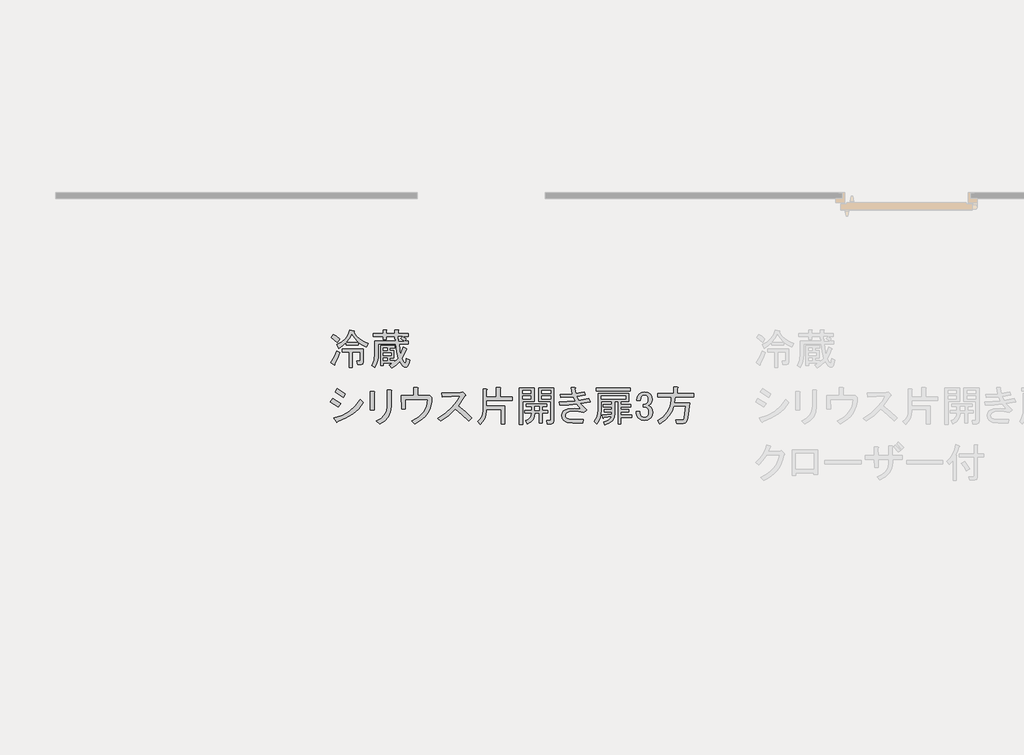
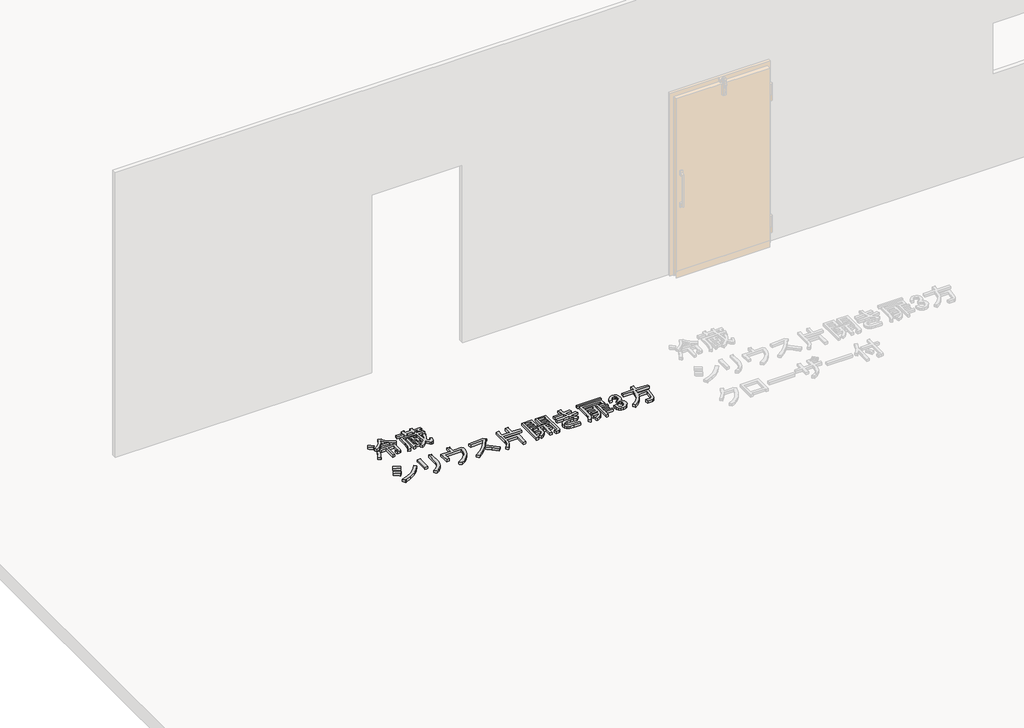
# One storey, part 73 of 117: 1 proxy.
"""IFC4 building model written with IfcOpenShell, lengths in millimetres."""

from ifc_helpers import new_model, si_unit, frame, origin, place, context, project, spatial, polyline, outline, extrude, element, save

model = new_model("IFC4")

# Units and contexts
model_context = context("Model", 3, world=origin())
ifc_project = project(units=[si_unit("LENGTHUNIT", "METRE", prefix="MILLI")], contexts=[model_context])

# Site, building, storey
site = spatial("IfcSite", under=ifc_project)
building = spatial("IfcBuilding", under=site)
storey = spatial("IfcBuildingStorey", under=building, Name="レベル 1", Elevation=500.0)

# Proxy
placement = place(None, origin())
element("IfcBuildingElementProxy", 1, Name="200㎜\u3000MS Pゴシック", ObjectType="200㎜\u3000MS Pゴシック", at=placement, inside=storey, context=model_context, shape_type="SweptSolid", body=[
    extrude(outline(polyline([(-24116.3970532, 18948.5050774), (-24082.7035553, 18967.9021871), (-24056.3378543, 18991.6097656), (-24037.2999504, 19019.6278129), (-24025.5898434, 19051.9563291), (-23994.5544679, 19043.9101206), (-23993.117645, 19040.174381), (-23998.002843, 19038.1628289), (-23979.1804624, 19010.6476696), (-23956.0476131, 18987.874026), (-23928.6042949, 18969.8418981), (-23896.850508, 18956.5512859), (-23908.3450915, 18932.4126605), (-23937.3689149, 18945.9187961), (-23966.9674674, 18965.7469527), (-23966.9674674, 18946.2061607), (-24049.7284688, 18946.2061607), (-24049.7284688, 18964.5974943), (-24074.1544588, 18942.7577856), (-24103.7530113, 18923.2169937), (-24116.3970532, 18948.5050774)]), holes=[polyline([(-23969.2663841, 18968.0458694), (-23995.4165617, 18995.3455052), (-24011.7963432, 19022.0704119), (-24025.5898434, 18993.0465885), (-24046.2800937, 18968.0458694), (-23969.2663841, 18968.0458694)])]), frame((0.0, 0.0, 500.0), z_axis=(0.0, 0.0, 1.0), x_axis=(1.0, 0.0, 0.0)), (0.0, 0.0, 1.0), 25.0),
    extrude(outline(polyline([(-24158.9270122, 18822.0646587), (-24135.9378452, 18861.7209718), (-24117.5465116, 18904.82566), (-24096.8562612, 18892.1816181), (-24114.3855011, 18848.2148362), (-24132.4894701, 18812.8689919), (-24133.0641993, 18806.5469709), (-24137.0873035, 18805.9722417), (-24158.9270122, 18822.0646587)])), frame((0.0, 0.0, 500.0), z_axis=(0.0, 0.0, 1.0), x_axis=(1.0, 0.0, 0.0)), (0.0, 0.0, 1.0), 25.0),
    extrude(outline(polyline([(-24079.6143859, 18897.9289099), (-24079.6143859, 18919.7686186), (-23930.1848002, 18919.7686186), (-23930.1848002, 18825.5130337), (-23934.2079044, 18814.3058148), (-23946.2772171, 18810.5700752), (-23971.5653009, 18810.5700752), (-23976.1631343, 18832.4097838), (-23957.7718006, 18832.4097838), (-23954.3234256, 18833.5592422), (-23953.1739672, 18837.0076172), (-23953.1739672, 18897.9289099), (-24007.1985098, 18897.9289099), (-24007.1985098, 18786.4314498), (-24030.1876768, 18786.4314498), (-24030.1876768, 18897.9289099), (-24079.6143859, 18897.9289099)])), frame((0.0, 0.0, 500.0), z_axis=(0.0, 0.0, 1.0), x_axis=(1.0, 0.0, 0.0)), (0.0, 0.0, 1.0), 25.0),
    extrude(outline(polyline([(-24141.685137, 19022.0704119), (-24120.9948866, 19009.1390055), (-24098.0057196, 18988.7361197), (-24114.0981365, 18965.7469527), (-24155.4786372, 19000.2307032), (-24141.685137, 19022.0704119)])), frame((0.0, 0.0, 500.0), z_axis=(0.0, 0.0, 1.0), x_axis=(1.0, 0.0, 0.0)), (0.0, 0.0, 1.0), 25.0),
    extrude(outline(polyline([(-23711.7877133, 18826.6624921), (-23685.3501712, 18853.1000342), (-23695.4079318, 18900.8025558), (-23700.2931298, 18954.2523692), (-23825.5840901, 18954.2523692), (-23825.5840901, 18879.5375763), (-23827.1645954, 18853.5310811), (-23831.9061111, 18829.536138), (-23839.8086373, 18807.552747), (-23850.8721739, 18787.5809081), (-23871.5624242, 18803.673325), (-23861.5046636, 18821.9209764), (-23854.3205489, 18842.1801798), (-23848.5732572, 18888.7332431), (-23848.5732572, 18976.0920778), (-23701.4425881, 18976.0920778), (-23701.4425881, 18987.5866614), (-23708.3393382, 18987.5866614), (-23708.3393382, 19005.977995), (-23768.1111725, 19005.977995), (-23768.1111725, 18984.1382863), (-23791.1003396, 18984.1382863), (-23791.1003396, 19005.977995), (-23860.0678407, 19005.977995), (-23860.0678407, 19027.8177037), (-23791.1003396, 19027.8177037), (-23791.1003396, 19053.1057874), (-23769.2606309, 19053.1057874), (-23764.3754329, 19050.8068707), (-23768.1111725, 19046.2090373), (-23768.1111725, 19027.8177037), (-23708.3393382, 19027.8177037), (-23708.3393382, 19053.1057874), (-23686.4996295, 19053.1057874), (-23681.6144316, 19050.8068707), (-23685.3501712, 19046.2090373), (-23685.3501712, 19027.8177037), (-23615.2332117, 19027.8177037), (-23615.2332117, 19005.977995), (-23652.015879, 19005.977995), (-23629.0267119, 18989.8855781), (-23642.8202122, 18976.0920778), (-23614.0837534, 18976.0920778), (-23614.0837534, 18954.2523692), (-23678.4534211, 18954.2523692), (-23669.2577543, 18877.2386596), (-23649.7169623, 18932.4126605), (-23626.7277952, 18922.0675353), (-23623.2794202, 18918.3317957), (-23629.0267119, 18916.3202435), (-23642.245483, 18882.4112222), (-23658.9126291, 18849.6516591), (-23646.8433164, 18828.099315), (-23635.9234621, 18820.9152003), (-23631.9003578, 18824.3635754), (-23629.0267119, 18834.7087005), (-23626.7277952, 18849.6516591), (-23604.8880866, 18841.6054507), (-23608.3364616, 18824.3635754), (-23617.819493, 18798.5007625), (-23624.5007197, 18792.0350592), (-23632.475087, 18789.8798248), (-23642.3891653, 18792.394265), (-23652.5906082, 18799.9375854), (-23673.8555877, 18830.1108671), (-23703.4541402, 18802.5238667), (-23730.1790469, 18784.1325331), (-23746.2714639, 18804.8227834), (-23723.2822968, 18818.6162836), (-23789.9508812, 18818.6162836), (-23789.9508812, 18801.3744083), (-23809.4916732, 18801.3744083), (-23809.4916732, 18942.7577856), (-23710.6382549, 18942.7577856), (-23710.6382549, 18924.366452), (-23743.9725471, 18924.366452), (-23743.9725471, 18908.2740351), (-23715.2360883, 18908.2740351), (-23715.2360883, 18855.3989509), (-23743.9725471, 18855.3989509), (-23743.9725471, 18837.0076172), (-23711.7877133, 18837.0076172), (-23711.7877133, 18826.6624921)]), holes=[polyline([(-23680.7523378, 18988.7361197), (-23675.8671398, 18986.1498384), (-23679.6028794, 18982.988828), (-23679.6028794, 18976.0920778), (-23646.2685872, 18976.0920778), (-23669.2577543, 18993.3339531), (-23656.6137124, 19005.977995), (-23685.3501712, 19005.977995), (-23685.3501712, 18988.7361197), (-23680.7523378, 18988.7361197)]), polyline([(-23789.9508812, 18908.2740351), (-23763.5133391, 18908.2740351), (-23763.5133391, 18924.366452), (-23789.9508812, 18924.366452), (-23789.9508812, 18908.2740351)]), polyline([(-23789.9508812, 18873.7902845), (-23734.7768803, 18873.7902845), (-23734.7768803, 18889.8827014), (-23789.9508812, 18889.8827014), (-23789.9508812, 18873.7902845)]), polyline([(-23789.9508812, 18837.0076172), (-23763.5133391, 18837.0076172), (-23763.5133391, 18855.3989509), (-23789.9508812, 18855.3989509), (-23789.9508812, 18837.0076172)])]), frame((0.0, 0.0, 500.0), z_axis=(0.0, 0.0, 1.0), x_axis=(1.0, 0.0, 0.0)), (0.0, 0.0, 1.0), 25.0),
    extrude(outline(polyline([(-24147.4324287, 18570.3447861), (-24088.8100528, 18533.5621188), (-24107.2013864, 18509.4234934), (-24164.674304, 18546.2061607), (-24147.4324287, 18570.3447861)])), frame((0.0, 0.0, 500.0), z_axis=(0.0, 0.0, 1.0), x_axis=(1.0, 0.0, 0.0)), (0.0, 0.0, 1.0), 25.0),
    extrude(outline(polyline([(-24115.2475949, 18638.1628289), (-24056.6252189, 18601.3801616), (-24072.7176358, 18577.2415362), (-24130.1905534, 18614.0242035), (-24115.2475949, 18638.1628289)])), frame((0.0, 0.0, 500.0), z_axis=(0.0, 0.0, 1.0), x_axis=(1.0, 0.0, 0.0)), (0.0, 0.0, 1.0), 25.0),
    extrude(outline(polyline([(-24139.3862203, 18431.2603255), (-24080.620162, 18449.7235003), (-24029.6129476, 18477.5260242), (-23986.3645771, 18514.6678972), (-23950.8750505, 18561.1491193), (-23930.1848002, 18540.4588689), (-23963.5190924, 18496.7794516), (-24004.8995931, 18459.9967843), (-24054.3263022, 18430.1108671), (-24111.7992198, 18407.1217001), (-24116.3970532, 18399.9375854), (-24123.2938033, 18405.9722417), (-24139.3862203, 18431.2603255)])), frame((0.0, 0.0, 500.0), z_axis=(0.0, 0.0, 1.0), x_axis=(1.0, 0.0, 0.0)), (0.0, 0.0, 1.0), 25.0),
    extrude(outline(polyline([(-23735.4665553, 18514.0213268), (-23740.4954356, 18473.9339668), (-23755.5820765, 18439.8812631), (-23780.726478, 18411.8632158), (-23815.92864, 18389.8798248), (-23838.917807, 18409.4206168), (-23805.655356, 18428.9614088), (-23781.732254, 18453.1000342), (-23767.1485012, 18481.836493), (-23761.9040974, 18515.1707852), (-23761.9040974, 18630.1166204), (-23737.765472, 18630.1166204), (-23731.4434511, 18626.6682453), (-23735.4665553, 18620.9209536), (-23735.4665553, 18514.0213268)])), frame((0.0, 0.0, 500.0), z_axis=(0.0, 0.0, 1.0), x_axis=(1.0, 0.0, 0.0)), (0.0, 0.0, 1.0), 25.0),
    extrude(outline(polyline([(-23853.8607656, 18488.7332431), (-23880.2983077, 18488.7332431), (-23880.2983077, 18618.6220369), (-23855.010224, 18618.6220369), (-23848.9755676, 18615.748391), (-23853.8607656, 18609.4263701), (-23853.8607656, 18488.7332431)])), frame((0.0, 0.0, 500.0), z_axis=(0.0, 0.0, 1.0), x_axis=(1.0, 0.0, 0.0)), (0.0, 0.0, 1.0), 25.0),
    extrude(outline(polyline([(-23446.952509, 18574.9426195), (-23448.8383391, 18544.6436157), (-23454.4958294, 18516.3920847), (-23463.92498, 18490.1880263), (-23477.1257907, 18466.0314406), (-23494.0982617, 18443.9223276), (-23514.8423929, 18423.8606873), (-23539.3581843, 18405.8465197), (-23567.6456359, 18389.8798248), (-23589.4853446, 18411.7195335), (-23540.6333647, 18440.1686277), (-23521.3799373, 18456.7639327), (-23505.5748849, 18474.9397429), (-23493.2182077, 18494.6960583), (-23484.3099054, 18516.032879), (-23478.8499782, 18538.9502048), (-23476.8384261, 18563.448036), (-23636.6131371, 18563.448036), (-23634.3142204, 18495.6299932), (-23660.7517625, 18495.6299932), (-23664.2001375, 18588.7361197), (-23573.3929277, 18588.7361197), (-23573.3929277, 18646.2090373), (-23550.4037607, 18646.2090373), (-23542.6449168, 18643.3353914), (-23546.9553856, 18637.0133705), (-23546.9553856, 18588.7361197), (-23460.7460092, 18588.7361197), (-23446.952509, 18574.9426195)])), frame((0.0, 0.0, 500.0), z_axis=(0.0, 0.0, 1.0), x_axis=(1.0, 0.0, 0.0)), (0.0, 0.0, 1.0), 25.0),
    extrude(outline(polyline([(-23262.3035193, 18517.4697019), (-23213.1641748, 18476.6639304), (-23164.5995594, 18430.1108671), (-23187.5887264, 18410.5700752), (-23235.0038834, 18457.1231384), (-23280.6948529, 18495.6299932), (-23328.6847391, 18449.9390237), (-23382.9966463, 18409.4206168), (-23404.836355, 18428.9614088), (-23349.3749895, 18468.6177219), (-23304.8334783, 18508.2740351), (-23271.2118215, 18547.9303482), (-23248.5100191, 18587.5866614), (-23373.8009795, 18579.5404529), (-23377.2493545, 18607.1274534), (-23243.9121857, 18612.8747451), (-23230.1186855, 18616.3231202), (-23211.7273518, 18597.9317865), (-23208.8537059, 18591.322401), (-23216.3251852, 18587.5866614), (-23262.3035193, 18517.4697019)])), frame((0.0, 0.0, 500.0), z_axis=(0.0, 0.0, 1.0), x_axis=(1.0, 0.0, 0.0)), (0.0, 0.0, 1.0), 25.0),
    extrude(outline(polyline([(-23064.1368994, 18637.0133705), (-23058.1022431, 18633.5649954), (-23062.9874411, 18627.8177037), (-23062.9874411, 18579.5404529), (-22991.7210232, 18579.5404529), (-22991.7210232, 18648.507954), (-22966.4329395, 18648.507954), (-22960.3982831, 18645.059579), (-22965.2834811, 18639.3122872), (-22965.2834811, 18579.5404529), (-22880.2235631, 18579.5404529), (-22880.2235631, 18554.2523692), (-23062.9874411, 18554.2523692), (-23062.9874411, 18517.4697019), (-22933.0986473, 18517.4697019), (-22933.0986473, 18388.7303665), (-22959.5361894, 18388.7303665), (-22959.5361894, 18492.1816181), (-23062.9874411, 18492.1816181), (-23062.9874411, 18480.6870346), (-23065.7174047, 18453.7466045), (-23073.9072954, 18429.2487734), (-23087.5571133, 18407.1935412), (-23106.6668584, 18387.5809081), (-23125.0581921, 18405.9722417), (-23107.9599991, 18421.5617706), (-23095.7470041, 18439.5938985), (-23088.4192071, 18460.0686254), (-23085.9766081, 18482.9859513), (-23085.9766081, 18637.0133705), (-23064.1368994, 18637.0133705)])), frame((0.0, 0.0, 500.0), z_axis=(0.0, 0.0, 1.0), x_axis=(1.0, 0.0, 0.0)), (0.0, 0.0, 1.0), 25.0),
    extrude(outline(polyline([(-22726.1961439, 18548.5050774), (-22806.6582286, 18548.5050774), (-22806.6582286, 18387.5809081), (-22829.6473956, 18387.5809081), (-22829.6473956, 18643.9101206), (-22726.1961439, 18643.9101206), (-22726.1961439, 18548.5050774)]), holes=[polyline([(-22749.185311, 18625.518787), (-22806.6582286, 18625.518787), (-22806.6582286, 18604.8285366), (-22749.185311, 18604.8285366), (-22749.185311, 18625.518787)]), polyline([(-22806.6582286, 18566.896411), (-22749.185311, 18566.896411), (-22749.185311, 18586.437203), (-22806.6582286, 18586.437203), (-22806.6582286, 18566.896411)])]), frame((0.0, 0.0, 500.0), z_axis=(0.0, 0.0, 1.0), x_axis=(1.0, 0.0, 0.0)), (0.0, 0.0, 1.0), 25.0),
    extrude(outline(polyline([(-22790.5658116, 18465.7440761), (-22790.5658116, 18484.1354097), (-22744.5874775, 18484.1354097), (-22744.5874775, 18511.7224101), (-22782.5196032, 18511.7224101), (-22782.5196032, 18530.1137438), (-22637.6878508, 18530.1137438), (-22637.6878508, 18511.7224101), (-22667.573768, 18511.7224101), (-22667.573768, 18484.1354097), (-22628.492184, 18484.1354097), (-22628.492184, 18465.7440761), (-22667.573768, 18465.7440761), (-22667.573768, 18396.7765749), (-22690.562935, 18396.7765749), (-22690.562935, 18465.7440761), (-22721.5983105, 18465.7440761), (-22723.9690684, 18442.1083387), (-22733.3802586, 18421.7772941), (-22749.8318813, 18404.7509422), (-22773.3239363, 18391.0292832), (-22784.8185199, 18412.8689919), (-22767.2174389, 18421.7772941), (-22754.6452381, 18433.5592422), (-22747.1019177, 18448.2148362), (-22744.5874775, 18465.7440761), (-22790.5658116, 18465.7440761)]), holes=[polyline([(-22690.562935, 18484.1354097), (-22690.562935, 18511.7224101), (-22721.5983105, 18511.7224101), (-22721.5983105, 18484.1354097), (-22690.562935, 18484.1354097)])]), frame((0.0, 0.0, 500.0), z_axis=(0.0, 0.0, 1.0), x_axis=(1.0, 0.0, 0.0)), (0.0, 0.0, 1.0), 25.0),
    extrude(outline(polyline([(-22695.1607684, 18643.9101206), (-22587.1116833, 18643.9101206), (-22587.1116833, 18409.4206168), (-22591.7095167, 18395.6271166), (-22605.503017, 18391.0292832), (-22633.0900174, 18391.0292832), (-22636.5383925, 18412.8689919), (-22614.6986838, 18412.8689919), (-22611.2503087, 18414.0184502), (-22610.1008504, 18417.4668253), (-22610.1008504, 18548.5050774), (-22652.6308094, 18548.5050774), (-22695.1607684, 18548.5050774), (-22695.1607684, 18643.9101206)]), holes=[polyline([(-22672.1716014, 18566.896411), (-22610.1008504, 18566.896411), (-22610.1008504, 18586.437203), (-22672.1716014, 18586.437203), (-22672.1716014, 18566.896411)]), polyline([(-22610.1008504, 18604.8285366), (-22610.1008504, 18625.518787), (-22672.1716014, 18625.518787), (-22672.1716014, 18604.8285366), (-22610.1008504, 18604.8285366)])]), frame((0.0, 0.0, 500.0), z_axis=(0.0, 0.0, 1.0), x_axis=(1.0, 0.0, 0.0)), (0.0, 0.0, 1.0), 25.0),
    extrude(outline(polyline([(-22426.187514, 18582.988828), (-22412.3940138, 18554.2523692), (-22339.9781376, 18570.3447861), (-22329.6330125, 18546.2061607), (-22399.7499719, 18533.5621188), (-22379.9218154, 18511.147681), (-22354.9210962, 18489.8827014), (-22374.4618882, 18470.3419095), (-22411.53192, 18477.2386596), (-22439.9810143, 18479.5375763), (-22477.9131399, 18476.0892012), (-22490.8445463, 18471.7787324), (-22499.7528486, 18465.7440761), (-22505.7875049, 18457.410503), (-22507.799057, 18448.5022008), (-22506.0748695, 18438.1570756), (-22500.9023069, 18430.1108671), (-22483.373067, 18423.214117), (-22449.1766811, 18420.9152003), (-22379.0597216, 18420.9152003), (-22383.657555, 18395.6271166), (-22453.7745145, 18395.6271166), (-22492.8560985, 18400.22495), (-22507.2243279, 18405.9722417), (-22518.1441822, 18414.0184502), (-22528.4893074, 18429.8235025), (-22531.9376824, 18449.6516591), (-22528.776672, 18465.7440761), (-22519.2936405, 18479.5375763), (-22506.9369633, 18488.0866728), (-22489.4077234, 18494.1931703), (-22438.8315559, 18499.0783683), (-22397.4510552, 18495.6299932), (-22426.187514, 18528.9642854), (-22482.7983379, 18523.7917228), (-22544.5817243, 18522.0675353), (-22548.0300993, 18546.2061607), (-22491.1319109, 18546.7808899), (-22437.6820976, 18550.8039941), (-22450.3261394, 18579.5404529), (-22538.8344325, 18576.0920778), (-22541.1333492, 18599.0812449), (-22456.0734312, 18601.3801616), (-22465.269098, 18648.507954), (-22439.9810143, 18648.507954), (-22433.9463579, 18645.059579), (-22438.8315559, 18639.3122872), (-22433.0842641, 18604.8285366), (-22372.1629715, 18616.3231202), (-22364.116763, 18593.3339531), (-22426.187514, 18582.988828)])), frame((0.0, 0.0, 500.0), z_axis=(0.0, 0.0, 1.0), x_axis=(1.0, 0.0, 0.0)), (0.0, 0.0, 1.0), 25.0),
    extrude(outline(polyline([(-22047.9697379, 18641.6112039), (-22047.9697379, 18623.2198703), (-22287.0570751, 18623.2198703), (-22287.0570751, 18641.6112039), (-22047.9697379, 18641.6112039)])), frame((0.0, 0.0, 500.0), z_axis=(0.0, 0.0, 1.0), x_axis=(1.0, 0.0, 0.0)), (0.0, 0.0, 1.0), 25.0),
    extrude(outline(polyline([(-22235.3314493, 18403.673325), (-22215.5032927, 18410.3545517), (-22199.6982403, 18418.9036482), (-22187.9162922, 18429.3206145), (-22180.1574484, 18441.6054507), (-22235.3314493, 18433.5592422), (-22237.3430014, 18428.6740442), (-22241.078741, 18430.1108671), (-22245.6765744, 18451.9505758), (-22177.8585317, 18458.8473259), (-22177.8585317, 18472.6408262), (-22231.8830742, 18472.6408262), (-22231.8830742, 18491.0321598), (-22177.8585317, 18491.0321598), (-22177.8585317, 18509.4234934), (-22238.7798243, 18509.4234934), (-22238.7798243, 18527.8148271), (-22177.8585317, 18527.8148271), (-22177.8585317, 18548.5050774), (-22252.5733245, 18548.5050774), (-22252.5733245, 18482.9859513), (-22254.5848767, 18455.6144743), (-22260.619533, 18430.9729609), (-22270.6772936, 18409.0614111), (-22284.7581584, 18389.8798248), (-22302.0000337, 18407.1217001), (-22290.433609, 18424.7946223), (-22282.1718771, 18444.4790965), (-22277.214838, 18466.1751229), (-22275.5624916, 18489.8827014), (-22275.5624916, 18605.977995), (-22058.314863, 18605.977995), (-22058.314863, 18548.5050774), (-22114.6383223, 18548.5050774), (-22114.6383223, 18527.8148271), (-22044.5213628, 18527.8148271), (-22044.5213628, 18509.4234934), (-22114.6383223, 18509.4234934), (-22114.6383223, 18491.0321598), (-22057.1654047, 18491.0321598), (-22057.1654047, 18472.6408262), (-22114.6383223, 18472.6408262), (-22114.6383223, 18453.1000342), (-22037.6246127, 18453.1000342), (-22037.6246127, 18434.7087005), (-22114.6383223, 18434.7087005), (-22114.6383223, 18388.7303665), (-22134.1791143, 18388.7303665), (-22134.1791143, 18548.5050774), (-22158.3177397, 18548.5050774), (-22158.3177397, 18462.295701), (-22162.7000496, 18434.4931771), (-22175.8469795, 18412.0068981), (-22197.7585294, 18394.836864), (-22228.4346991, 18382.9830747), (-22235.3314493, 18403.673325)]), holes=[polyline([(-22081.3040301, 18587.5866614), (-22252.5733245, 18587.5866614), (-22252.5733245, 18566.896411), (-22081.3040301, 18566.896411), (-22081.3040301, 18587.5866614)])]), frame((0.0, 0.0, 500.0), z_axis=(0.0, 0.0, 1.0), x_axis=(1.0, 0.0, 0.0)), (0.0, 0.0, 1.0), 25.0),
    extrude(outline(polyline([(-22001.9914038, 18556.5512859), (-21997.680935, 18580.6899113), (-21984.7495285, 18600.2307032), (-21968.0823824, 18611.4379222), (-21947.9668612, 18615.1736618), (-21925.2650588, 18611.4379222), (-21907.7358189, 18600.2307032), (-21897.3906938, 18584.1382863), (-21893.9423187, 18563.448036), (-21896.8159646, 18543.3325148), (-21905.4369022, 18528.9642854), (-21913.7704753, 18522.6422645), (-21922.6787775, 18519.7686186), (-21903.1379855, 18508.2740351), (-21892.7928604, 18492.1816181), (-21889.3444853, 18471.4913678), (-21893.3675895, 18448.5022008), (-21905.4369022, 18430.1108671), (-21924.6903296, 18418.0415544), (-21950.265778, 18414.0184502), (-21972.3928512, 18418.0415544), (-21990.4968203, 18430.1108671), (-22002.566133, 18447.640107), (-22006.5892372, 18468.0429928), (-22006.5892372, 18477.2386596), (-21980.1516951, 18477.2386596), (-21980.1516951, 18469.1924511), (-21977.5654138, 18455.3989509), (-21969.8065699, 18443.9043674), (-21960.8982677, 18437.869711), (-21950.265778, 18435.8581589), (-21936.7596423, 18438.1570756), (-21926.1271526, 18445.0538257), (-21919.2304024, 18456.8357738), (-21916.9314857, 18473.7902845), (-21919.2304024, 18488.1585139), (-21926.1271526, 18499.0783683), (-21935.8975486, 18505.9751184), (-21946.8174029, 18508.2740351), (-21956.0130697, 18508.2740351), (-21956.0130697, 18527.8148271), (-21949.1163196, 18527.8148271), (-21939.058559, 18530.1137438), (-21929.5755276, 18537.0104939), (-21922.6787775, 18548.2177128), (-21920.3798608, 18563.448036), (-21922.6787775, 18576.9541716), (-21929.5755276, 18587.5866614), (-21937.6217361, 18592.759224), (-21947.9668612, 18594.4834115), (-21957.7372572, 18592.4718594), (-21966.3581949, 18586.437203), (-21973.5423096, 18574.3678903), (-21976.70332, 18556.5512859), (-22001.9914038, 18556.5512859)])), frame((0.0, 0.0, 500.0), z_axis=(0.0, 0.0, 1.0), x_axis=(1.0, 0.0, 0.0)), (0.0, 0.0, 1.0), 25.0),
    extrude(outline(polyline([(-21736.4665245, 18538.1599522), (-21629.5668977, 18538.1599522), (-21641.0614813, 18434.7087005), (-21644.869062, 18416.6047315), (-21651.693971, 18403.673325), (-21661.5362081, 18395.9144812), (-21674.3957735, 18393.3281999), (-21720.3741075, 18393.3281999), (-21726.1213993, 18418.6162836), (-21676.6946902, 18418.6162836), (-21670.0853046, 18422.9267524), (-21666.349565, 18435.8581589), (-21657.1538982, 18516.3202435), (-21739.9148995, 18516.3202435), (-21751.6968476, 18480.8307169), (-21772.0997334, 18447.9274716), (-21801.1235568, 18417.6105076), (-21838.7683178, 18389.8798248), (-21854.8607347, 18414.0184502), (-21815.2762627, 18440.2404689), (-21786.1805982, 18472.9281908), (-21767.5737411, 18512.0816159), (-21759.4556915, 18557.7007442), (-21758.3062332, 18578.3909946), (-21854.8607347, 18578.3909946), (-21854.8607347, 18603.6790783), (-21742.2138162, 18603.6790783), (-21742.2138162, 18649.6574124), (-21716.9257325, 18649.6574124), (-21710.8910761, 18646.2090373), (-21715.7762741, 18640.4617456), (-21715.7762741, 18603.6790783), (-21599.6809806, 18603.6790783), (-21599.6809806, 18578.3909946), (-21731.8686911, 18578.3909946), (-21736.4665245, 18538.1599522)])), frame((0.0, 0.0, 500.0), z_axis=(0.0, 0.0, 1.0), x_axis=(1.0, 0.0, 0.0)), (0.0, 0.0, 1.0), 25.0),
])

save(model, "model.ifc")
